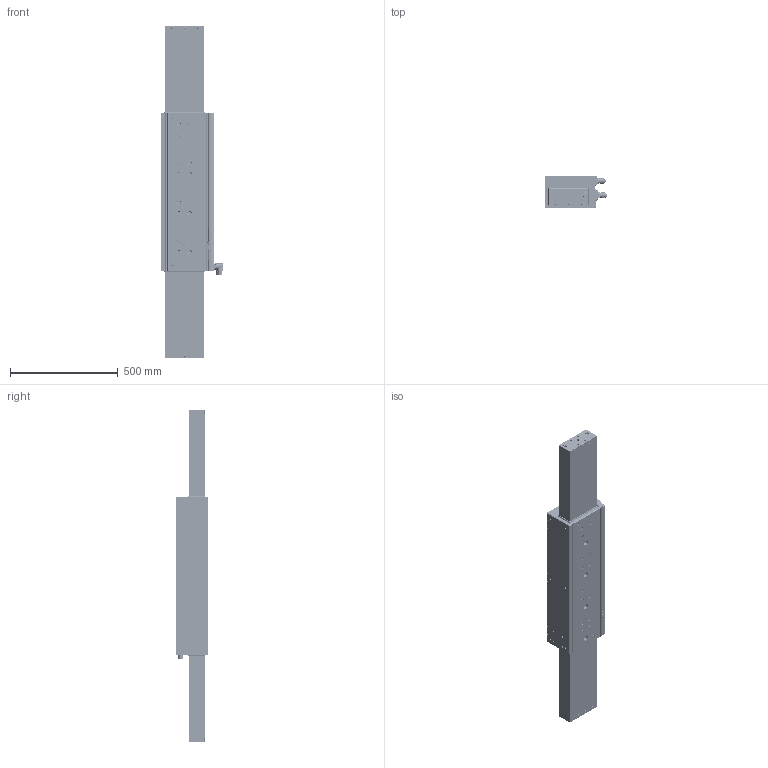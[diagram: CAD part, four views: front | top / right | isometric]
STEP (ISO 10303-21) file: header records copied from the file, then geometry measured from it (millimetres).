
FILE_DESCRIPTION((''),'2;1');
FILE_NAME('LDAT-150-DUMMY_ASM','2012-05-18T',('als'),('Rockwell Automation'),'PRO/ENGINEER BY PARAMETRIC TECHNOLOGY CORPORATION, 2007390','PRO/ENGINEER BY PARAMETRIC TECHNOLOGY CORPORATION, 2007390','');
FILE_SCHEMA(('CONFIG_CONTROL_DESIGN'));
Length unit declared in the file: millimetre
Products named in the file (28): B627631-150-A_AF6; D627756-150-600_ASM; D627769-150; D627768-150; D627739-150; B627834; SLIDER_DUMMY_150-1500; B627686-150; A805843-1; A805843-2; A805843-4; A805843-3_ASM; A805843-5; A805843-6; A805843_ASM; B627690-150; 627795; 627822; 627815; DIN7991-10_9-8X22-ZP; DIN7991-10_9-5X30-ZP; DIN912-14X30; DIN912-10X16; DIN912-3X8; ISO7380-3X8; 627849; DIN912-2_5X12; LDAT-150-DUMMY_ASM
Assembly tree (112 placements, depth 4):
  LDAT-150-DUMMY_ASM
    D627756-150-600_ASM
      B627631-150-A_AF6
    D627769-150
    D627768-150
    D627739-150  x2
    B627834
    SLIDER_DUMMY_150-1500
    B627686-150  x2
    A805843_ASM  x2
      A805843-1
      A805843-2
      A805843-3_ASM
        A805843-4
      A805843-5
      A805843-6
    B627690-150  x2
    627795  x4
    627822
    627815  x3
    DIN7991-10_9-8X22-ZP  x16
    DIN7991-10_9-5X30-ZP  x24
    DIN912-14X30  x4
    DIN912-10X16  x2
    DIN912-3X8  x14
    ISO7380-3X8  x6
    627849  x6
    DIN912-2_5X12  x8
Bounding box: 289.1 x 150 x 1538.1 mm (x, y, z)
Volume: 29144170 mm3; surface area: 2498052 mm2
Topology: 117 solids, 141 shells, 7274 faces, 19655 edges, 12761 vertices
Faces by surface type: cylinder 2876, plane 2065, bspline 874, cone 831, torus 510, sphere 110, extrusion 6, revolution 2
Entity records: 154865 total; most frequent: CARTESIAN_POINT 74135, ORIENTED_EDGE 17841, DIRECTION 15404, EDGE_CURVE 8940, AXIS2_PLACEMENT_3D 6159, VERTEX_POINT 5868, EDGE_LOOP 3596, FACE_OUTER_BOUND 3233
